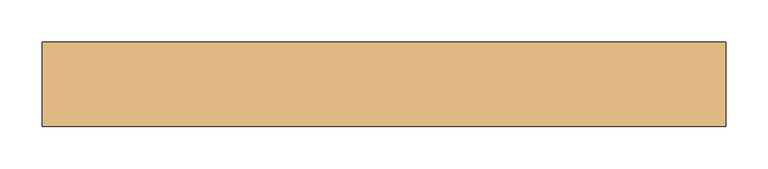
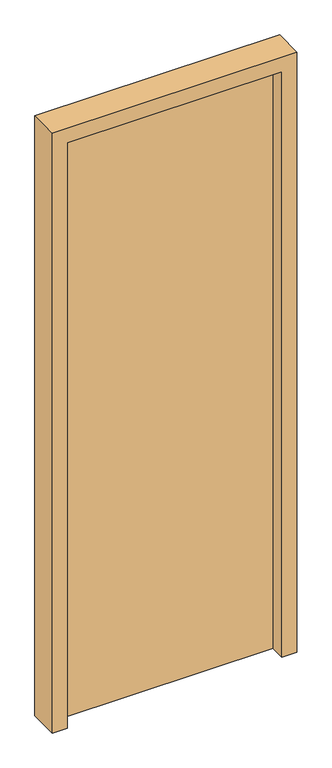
"""IFC4 building model written with IfcOpenShell, lengths in millimetres: door geometry, (Dr)_ДУ(распашная)_1Ст_Прямоугольная : (Вн)_ДГ(0.81х2.1(h))."""

import ifcopenshell
import ifcopenshell.guid

model = None  # the IFC model being written
_history = None  # IfcOwnerHistory: only IFC2X3 demands one
_inside = {}  # id of a spatial element -> (the spatial element, [elements in it])
_under = {}  # id of a project, library or spatial element -> (it, [spatial elements below it])
_declared = {}  # id of a project -> (the project, [libraries it declares])
_typed = {}  # id of a type object -> (the type object, [elements of that type])
_made_of = {}  # id of a material, layer set ... -> (it, [elements and type objects made of it])


def new_model(schema):
    """Start an empty IFC model of exactly this schema.

    Asked for "IFC4X3", IfcOpenShell would pick the latest addendum, in which some entities
    have other attributes; the version numbers below select the first issue.
    IFC2X3 requires an IfcOwnerHistory on every rooted entity: one is made here for all.
    """
    global model, _history
    if schema == "IFC4X3":
        model = ifcopenshell.file(schema_version=(4, 3, 0, 0))
    else:
        model = ifcopenshell.file(schema=schema)
    _inside.clear()
    _under.clear()
    _declared.clear()
    _typed.clear()
    _made_of.clear()
    _history = None
    if model.schema == "IFC2X3":
        org = make("IfcOrganization", Name="unknown")
        user = make(
            "IfcPersonAndOrganization",
            ThePerson=make("IfcPerson", FamilyName="unknown"),
            TheOrganization=org,
        )
        app = make(
            "IfcApplication",
            ApplicationDeveloper=org,
            Version="unknown",
            ApplicationFullName="unknown",
            ApplicationIdentifier="unknown",
        )
        _history = make(
            "IfcOwnerHistory",
            OwningUser=user,
            OwningApplication=app,
            ChangeAction="ADDED",
            CreationDate=0,
        )
    return model


def make(cls, **values):
    """One entity of the class cls with the attributes given. An attribute that is None is left unset."""
    return model.create_entity(
        cls, **{name: value for name, value in values.items() if value is not None}
    )


def rooted(cls, **values):
    """An entity with a GlobalId (a new one), such as an element, a storey or a relation."""
    return make(cls, GlobalId=ifcopenshell.guid.new(), OwnerHistory=_history, **values)


def si_unit(unit_type, name, prefix=None):
    """IfcSIUnit, for example si_unit("LENGTHUNIT", "METRE", prefix="MILLI")."""
    return make("IfcSIUnit", UnitType=unit_type, Prefix=prefix, Name=name)


def assignment(units):
    """IfcUnitAssignment: the units of a project."""
    return None if units is None else make("IfcUnitAssignment", Units=units)


def point(xyz):
    """IfcCartesianPoint."""
    return None if xyz is None else make("IfcCartesianPoint", Coordinates=xyz)


def direction(xyz):
    """IfcDirection."""
    return None if xyz is None else make("IfcDirection", DirectionRatios=xyz)


def frame(location, z_axis=None, x_axis=None):
    """IfcAxis2Placement3D, a coordinate frame: its origin and axes. An axis left out is left unset."""
    return make(
        "IfcAxis2Placement3D",
        Location=point(location),
        Axis=direction(z_axis),
        RefDirection=direction(x_axis),
    )


def origin():
    """The frame at (0, 0, 0) with its axes left unset."""
    return frame((0.0, 0.0, 0.0))


def origin_with_axes():
    """The frame at (0, 0, 0) with the z axis (0, 0, 1) and the x axis (1, 0, 0) written out."""
    return frame((0.0, 0.0, 0.0), z_axis=(0.0, 0.0, 1.0), x_axis=(1.0, 0.0, 0.0))


def place(relative_to, where):
    """IfcLocalPlacement: puts the frame where relative to a parent placement (None: the world)."""
    return make(
        "IfcLocalPlacement", PlacementRelTo=relative_to, RelativePlacement=where
    )


def context(
    kind, dimensions, precision=None, world=None, true_north=None, identifier=None
):
    """IfcGeometricRepresentationContext, for example the 3D "Model" context."""
    return make(
        "IfcGeometricRepresentationContext",
        ContextIdentifier=identifier,
        ContextType=kind,
        CoordinateSpaceDimension=dimensions,
        Precision=precision,
        WorldCoordinateSystem=world,
        TrueNorth=true_north,
    )


def project(units=None, contexts=None):
    """IfcProject with its units and contexts."""
    return rooted(
        "IfcProject",
        Name="project",
        RepresentationContexts=contexts,
        UnitsInContext=assignment(units),
    )


def spatial(cls, under=None, at=None, **own):
    """A site, building, storey or space (cls), placed at a placement, below another one or the project."""
    s = rooted(cls, ObjectPlacement=at, **own)
    if under is not None:
        _under.setdefault(under.id(), (under, []))[1].append(s)
    return s


def polyline(points):
    """IfcPolyline through the points."""
    return make("IfcPolyline", Points=[point(p) for p in points])


def outline(outer, holes=None, kind="AREA"):
    """IfcArbitraryClosedProfileDef: a profile drawn as a closed curve; with holes, ...WithVoids."""
    if holes is None:
        return make("IfcArbitraryClosedProfileDef", ProfileType=kind, OuterCurve=outer)
    return make(
        "IfcArbitraryProfileDefWithVoids",
        ProfileType=kind,
        OuterCurve=outer,
        InnerCurves=holes,
    )


def extrude(swept, where, along, depth):
    """IfcExtrudedAreaSolid: the profile swept, set in the frame where, extruded along a direction by depth."""
    return make(
        "IfcExtrudedAreaSolid",
        SweptArea=swept,
        Position=where,
        ExtrudedDirection=direction(along),
        Depth=depth,
    )


def shape(context_of_items, identifier, shape_type, items):
    """IfcShapeRepresentation: the items that make up one representation, for example the "Body"."""
    return make(
        "IfcShapeRepresentation",
        ContextOfItems=context_of_items,
        RepresentationIdentifier=identifier,
        RepresentationType=shape_type,
        Items=items,
    )


def source(mapping_origin, context_of_items, identifier, shape_type, items):
    """IfcRepresentationMap: a shape defined once, which mapped items show again and again."""
    return make(
        "IfcRepresentationMap",
        MappingOrigin=mapping_origin,
        MappedRepresentation=shape(context_of_items, identifier, shape_type, items),
    )


def transform(
    local_origin,
    x_axis=None,
    y_axis=None,
    z_axis=None,
    scale=None,
    scale2=None,
    scale3=None,
    uniform=True,
):
    """IfcCartesianTransformationOperator3D, or its non-uniform kind. x_axis, y_axis, z_axis: its Axis1, 2, 3."""
    if uniform:
        return make(
            "IfcCartesianTransformationOperator3D",
            Axis1=direction(x_axis),
            Axis2=direction(y_axis),
            LocalOrigin=point(local_origin),
            Scale=scale,
            Axis3=direction(z_axis),
        )
    return make(
        "IfcCartesianTransformationOperator3DnonUniform",
        Axis1=direction(x_axis),
        Axis2=direction(y_axis),
        LocalOrigin=point(local_origin),
        Scale=scale,
        Axis3=direction(z_axis),
        Scale2=scale2,
        Scale3=scale3,
    )


def mapped(mapping_source, mapping_target):
    """IfcMappedItem: shows the shape of a source again, moved by a transform."""
    return make(
        "IfcMappedItem", MappingSource=mapping_source, MappingTarget=mapping_target
    )


def made_of(thing, what):
    """Note that an element or type object is made of a material, layer set ...; save() writes the relation."""
    if what is not None:
        _made_of.setdefault(what.id(), (what, []))[1].append(thing)
    return thing


def element(
    cls,
    number,
    at=None,
    inside=None,
    cuts=None,
    type_object=None,
    material=None,
    context=None,
    identifier="Body",
    shape_type=None,
    held_by="IfcProductDefinitionShape",
    body=None,
    shapes=None,
    **own,
):
    """One element of the class cls, such as IfcWall. Its Tag is "e" and its number.

    at: its placement. inside: the storey or other place that contains it. cuts: it is an
    opening in that element (IfcRelVoidsElement). A single representation is given by context,
    identifier, shape_type and body (its items); several are given by shapes. held_by: the class
    of the entity that holds the representations. save() writes the other relations.
    """
    e = rooted(cls, Tag="e%d" % number, ObjectPlacement=at, **own)
    if body is not None:
        shapes = [shape(context, identifier, shape_type, body)]
    if shapes is not None:
        e.Representation = make(held_by, Representations=shapes)
    if inside is not None:
        _inside.setdefault(inside.id(), (inside, []))[1].append(e)
    if cuts is not None:
        rooted(
            "IfcRelVoidsElement", RelatingBuildingElement=cuts, RelatedOpeningElement=e
        )
    if type_object is not None:
        _typed.setdefault(type_object.id(), (type_object, []))[1].append(e)
    return made_of(e, material)


def aggregate(whole, parts):
    """IfcRelAggregates: a whole, such as a stair, and the parts it consists of."""
    return rooted("IfcRelAggregates", RelatingObject=whole, RelatedObjects=parts)


def save(model, path):
    """Write the relations noted so far, then the file.

    IfcRelAggregates (storeys below a building ...), IfcRelContainedInSpatialStructure (elements
    in a storey), IfcRelDefinesByType, IfcRelAssociatesMaterial and IfcRelDeclares: one each for
    every whole, place, type object, material and project.
    """
    for whole, parts in _under.values():
        aggregate(whole, parts)
    for where, things in _inside.values():
        rooted(
            "IfcRelContainedInSpatialStructure",
            RelatedElements=things,
            RelatingStructure=where,
        )
    for kind, things in _typed.values():
        rooted("IfcRelDefinesByType", RelatedObjects=things, RelatingType=kind)
    for what, things in _made_of.values():
        rooted("IfcRelAssociatesMaterial", RelatedObjects=things, RelatingMaterial=what)
    for by, libraries in _declared.values():
        rooted("IfcRelDeclares", RelatingContext=by, RelatedDefinitions=libraries)
    model.write(path)


def door_10fb9903(model_context):
    return source(origin(), model_context, "Body", "SweptSolid", [
        extrude(outline(polyline([(-355.0, 50.0), (355.0, 50.0), (355.0, 0.0), (-355.0, 0.0), (-355.0, 50.0)])), origin_with_axes(), (0.0, 0.0, 1.0), 2050.0),
        extrude(outline(polyline([(0.0, -405.0), (0.0, -355.0), (2050.0, -355.0), (2050.0, 355.0), (0.0, 355.0), (0.0, 405.0), (2100.0, 405.0), (2100.0, -405.0), (0.0, -405.0)])), frame((0.0, -50.0, 0.0), z_axis=(0.0, 1.0, 0.0), x_axis=(0.0, 0.0, 1.0)), (0.0, 0.0, 1.0), 100.0),
    ])


if __name__ == "__main__":
    model = new_model("IFC4")
    model_context = context("Model", 3, world=origin())
    ifc_project = project(units=[si_unit("LENGTHUNIT", "METRE", prefix="MILLI")], contexts=[model_context])
    site = spatial("IfcSite", under=ifc_project)
    building = spatial("IfcBuilding", under=site)
    placement = place(None, origin())
    door_shape = door_10fb9903(model_context)
    element("IfcDoor", 1, ObjectType="(Dr)_ДУ(распашная)_1Ст_Прямоугольная : (Вн)_ДГ(0.81х2.1(h))", at=placement, inside=building, context=model_context, shape_type="MappedRepresentation", body=[
        mapped(door_shape, transform((0.0, 0.0, 0.0), x_axis=(1.0, 0.0, 0.0), y_axis=(0.0, 1.0, 0.0), z_axis=(0.0, 0.0, 1.0))),
    ])
    save(model, "model.ifc")
